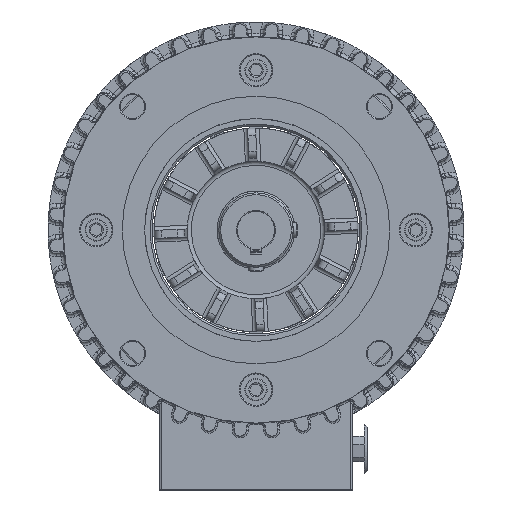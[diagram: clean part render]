
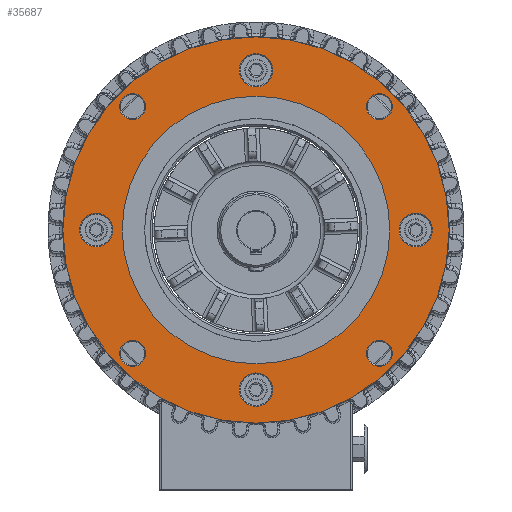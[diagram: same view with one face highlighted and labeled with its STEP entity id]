
A CAD part, front view. The second image highlights one B-rep face of the part: STEP entity #35687.
In plain terms, the highlighted planar face has unit normal (0, -1, 0).
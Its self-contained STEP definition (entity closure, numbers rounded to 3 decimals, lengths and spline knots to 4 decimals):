
#2288=FACE_BOUND('',#5608,.T.);
#2289=FACE_BOUND('',#5609,.T.);
#2290=FACE_BOUND('',#5610,.T.);
#2291=FACE_BOUND('',#5611,.T.);
#2292=FACE_BOUND('',#5612,.T.);
#2293=FACE_BOUND('',#5613,.T.);
#2294=FACE_BOUND('',#5614,.T.);
#2295=FACE_BOUND('',#5615,.T.);
#2296=FACE_BOUND('',#5616,.T.);
#2481=PLANE('',#38238);
#3276=FACE_OUTER_BOUND('',#5607,.T.);
#5607=EDGE_LOOP('',(#24199));
#5608=EDGE_LOOP('',(#24200));
#5609=EDGE_LOOP('',(#24201));
#5610=EDGE_LOOP('',(#24202));
#5611=EDGE_LOOP('',(#24203));
#5612=EDGE_LOOP('',(#24204));
#5613=EDGE_LOOP('',(#24205));
#5614=EDGE_LOOP('',(#24206));
#5615=EDGE_LOOP('',(#24207));
#5616=EDGE_LOOP('',(#24208));
#11751=CIRCLE('',#38133,0.2813);
#11754=CIRCLE('',#38137,0.2188);
#11757=CIRCLE('',#38141,0.2813);
#11759=CIRCLE('',#38144,0.2188);
#11762=CIRCLE('',#38148,0.2813);
#11764=CIRCLE('',#38151,0.2188);
#11766=CIRCLE('',#38154,0.2813);
#11768=CIRCLE('',#38157,0.2188);
#11799=CIRCLE('',#38217,3.25);
#11802=CIRCLE('',#38225,2.252);
#14470=VERTEX_POINT('',#56129);
#14472=VERTEX_POINT('',#56136);
#14475=VERTEX_POINT('',#56144);
#14477=VERTEX_POINT('',#56150);
#14480=VERTEX_POINT('',#56158);
#14482=VERTEX_POINT('',#56164);
#14484=VERTEX_POINT('',#56170);
#14486=VERTEX_POINT('',#56176);
#14529=VERTEX_POINT('',#56360);
#14538=VERTEX_POINT('',#56418);
#18052=EDGE_CURVE('',#14470,#14470,#11751,.T.);
#18056=EDGE_CURVE('',#14472,#14472,#11754,.T.);
#18060=EDGE_CURVE('',#14475,#14475,#11757,.T.);
#18063=EDGE_CURVE('',#14477,#14477,#11759,.T.);
#18067=EDGE_CURVE('',#14480,#14480,#11762,.T.);
#18070=EDGE_CURVE('',#14482,#14482,#11764,.T.);
#18073=EDGE_CURVE('',#14484,#14484,#11766,.T.);
#18076=EDGE_CURVE('',#14486,#14486,#11768,.T.);
#18142=EDGE_CURVE('',#14529,#14529,#11799,.T.);
#18153=EDGE_CURVE('',#14538,#14538,#11802,.T.);
#24199=ORIENTED_EDGE('',*,*,#18142,.F.);
#24200=ORIENTED_EDGE('',*,*,#18153,.T.);
#24201=ORIENTED_EDGE('',*,*,#18076,.T.);
#24202=ORIENTED_EDGE('',*,*,#18073,.T.);
#24203=ORIENTED_EDGE('',*,*,#18070,.T.);
#24204=ORIENTED_EDGE('',*,*,#18067,.T.);
#24205=ORIENTED_EDGE('',*,*,#18063,.T.);
#24206=ORIENTED_EDGE('',*,*,#18060,.T.);
#24207=ORIENTED_EDGE('',*,*,#18056,.T.);
#24208=ORIENTED_EDGE('',*,*,#18052,.T.);
#35687=ADVANCED_FACE('',(#3276,#2288,#2289,#2290,#2291,#2292,#2293,#2294,
#2295,#2296),#2481,.F.);
#38133=AXIS2_PLACEMENT_3D('',#56131,#43782,#43783);
#38137=AXIS2_PLACEMENT_3D('',#56138,#43791,#43792);
#38141=AXIS2_PLACEMENT_3D('',#56146,#43800,#43801);
#38144=AXIS2_PLACEMENT_3D('',#56152,#43807,#43808);
#38148=AXIS2_PLACEMENT_3D('',#56160,#43816,#43817);
#38151=AXIS2_PLACEMENT_3D('',#56166,#43823,#43824);
#38154=AXIS2_PLACEMENT_3D('',#56172,#43830,#43831);
#38157=AXIS2_PLACEMENT_3D('',#56178,#43837,#43838);
#38217=AXIS2_PLACEMENT_3D('',#56362,#43978,#43979);
#38225=AXIS2_PLACEMENT_3D('',#56419,#43994,#43995);
#38238=AXIS2_PLACEMENT_3D('',#56517,#44022,#44023);
#43782=DIRECTION('center_axis',(0.,1.,0.));
#43783=DIRECTION('ref_axis',(0.,0.,1.));
#43791=DIRECTION('center_axis',(0.,1.,0.));
#43792=DIRECTION('ref_axis',(0.,0.,1.));
#43800=DIRECTION('center_axis',(0.,1.,0.));
#43801=DIRECTION('ref_axis',(0.,0.,1.));
#43807=DIRECTION('center_axis',(0.,1.,0.));
#43808=DIRECTION('ref_axis',(0.,0.,1.));
#43816=DIRECTION('center_axis',(0.,1.,0.));
#43817=DIRECTION('ref_axis',(0.,0.,1.));
#43823=DIRECTION('center_axis',(0.,1.,0.));
#43824=DIRECTION('ref_axis',(0.,0.,1.));
#43830=DIRECTION('center_axis',(0.,1.,0.));
#43831=DIRECTION('ref_axis',(0.,0.,1.));
#43837=DIRECTION('center_axis',(0.,1.,0.));
#43838=DIRECTION('ref_axis',(0.,0.,1.));
#43978=DIRECTION('center_axis',(0.,1.,0.));
#43979=DIRECTION('ref_axis',(0.,0.,1.));
#43994=DIRECTION('center_axis',(0.,1.,0.));
#43995=DIRECTION('ref_axis',(0.,0.,1.));
#44022=DIRECTION('center_axis',(0.,1.,0.));
#44023=DIRECTION('ref_axis',(0.,0.,1.));
#56129=CARTESIAN_POINT('',(-2.6875,-2.5,0.2812));
#56131=CARTESIAN_POINT('Origin',(-2.6875,-2.5,0.));
#56136=CARTESIAN_POINT('',(-2.0771,-2.5,2.2959));
#56138=CARTESIAN_POINT('Origin',(-2.0771,-2.5,2.0771));
#56144=CARTESIAN_POINT('',(0.,-2.5,2.9687));
#56146=CARTESIAN_POINT('Origin',(0.,-2.5,2.6875));
#56150=CARTESIAN_POINT('',(2.0771,-2.5,2.2959));
#56152=CARTESIAN_POINT('Origin',(2.0771,-2.5,2.0771));
#56158=CARTESIAN_POINT('',(2.6875,-2.5,0.2812));
#56160=CARTESIAN_POINT('Origin',(2.6875,-2.5,0.));
#56164=CARTESIAN_POINT('',(2.0771,-2.5,-1.8584));
#56166=CARTESIAN_POINT('Origin',(2.0771,-2.5,-2.0771));
#56170=CARTESIAN_POINT('',(0.,-2.5,-2.4063));
#56172=CARTESIAN_POINT('Origin',(0.,-2.5,-2.6875));
#56176=CARTESIAN_POINT('',(-2.0771,-2.5,-1.8584));
#56178=CARTESIAN_POINT('Origin',(-2.0771,-2.5,-2.0771));
#56360=CARTESIAN_POINT('',(0.,-2.5,-3.25));
#56362=CARTESIAN_POINT('Origin',(0.,-2.5,0.));
#56418=CARTESIAN_POINT('',(0.,-2.5,-2.252));
#56419=CARTESIAN_POINT('Origin',(0.,-2.5,0.));
#56517=CARTESIAN_POINT('Origin',(2.252,-2.5,0.));
